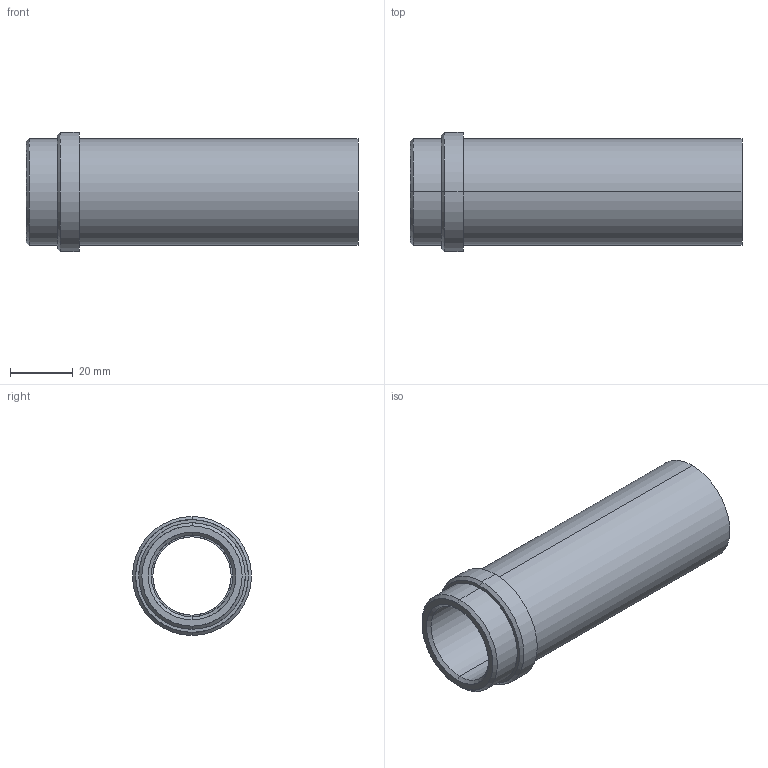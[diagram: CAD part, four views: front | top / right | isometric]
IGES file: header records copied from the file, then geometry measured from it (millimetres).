
Start section: START RECORD GO HERE.
Global section: file name: 358-25x106.igs; native system: DASSAULT SYSTEMES CATIA V5 R20 - www.3ds.com; preprocessor: CATIA Version 5 Release 20 ; author: Utente; organization: NB04-ASUS; date: 20210409.151802; units: millimetre
Bounding box: 106 x 38 x 38 mm (x, y, z)
Surface area: 20950.6 mm2 (no closed solid volume)
Topology: 0 solids, 0 shells, 23 faces, 148 edges, 148 vertices
Faces by surface type: revolution 18, plane 5
